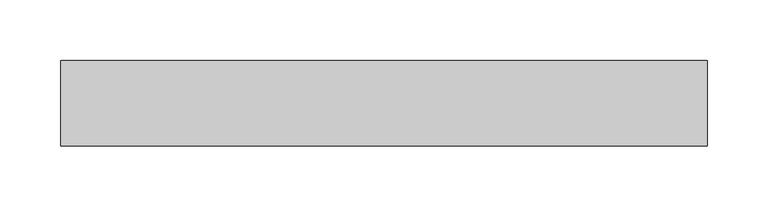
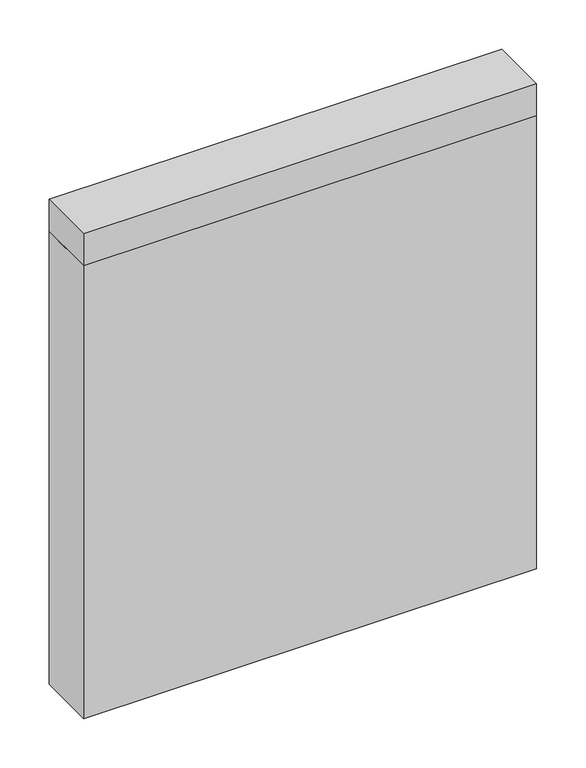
"""IFC4 building model written with IfcOpenShell, lengths in millimetres: plate geometry, 営_パーティションパネル_上部 : パーティションパネル_上部."""

from ifc_helpers import new_model, si_unit, frame, origin, origin_with_axes, place, context, project, spatial, polyline, outline, extrude, source, transform, mapped, element, save


def plate_6b89f69e(model_context):
    return source(origin(), model_context, "Body", "SweptSolid", [
        extrude(outline(polyline([(-264.9999998, -35.0), (-264.9999998, 35.0), (264.9999998, 35.0), (264.9999998, -35.0), (-264.9999998, -35.0)])), origin_with_axes(), (0.0, 0.0, 1.0), 560.0),
        extrude(outline(polyline([(-264.9999998, -35.0), (-264.9999998, 35.0), (264.9999998, 35.0), (264.9999998, -35.0), (-264.9999998, -35.0)])), frame((0.0, 0.0, 560.0), z_axis=(0.0, 0.0, 1.0), x_axis=(1.0, 0.0, 0.0)), (0.0, 0.0, 1.0), 40.0),
    ])


if __name__ == "__main__":
    model = new_model("IFC4")
    model_context = context("Model", 3, world=origin())
    ifc_project = project(units=[si_unit("LENGTHUNIT", "METRE", prefix="MILLI")], contexts=[model_context])
    site = spatial("IfcSite", under=ifc_project)
    building = spatial("IfcBuilding", under=site)
    placement = place(None, origin())
    plate_shape = plate_6b89f69e(model_context)
    element("IfcPlate", 1, ObjectType="営_パーティションパネル_上部 : パーティションパネル_上部", at=placement, inside=building, context=model_context, shape_type="MappedRepresentation", body=[
        mapped(plate_shape, transform((0.0, 0.0, 0.0), x_axis=(1.0, 0.0, 0.0), y_axis=(0.0, 1.0, 0.0), z_axis=(0.0, 0.0, 1.0))),
    ])
    save(model, "model.ifc")
